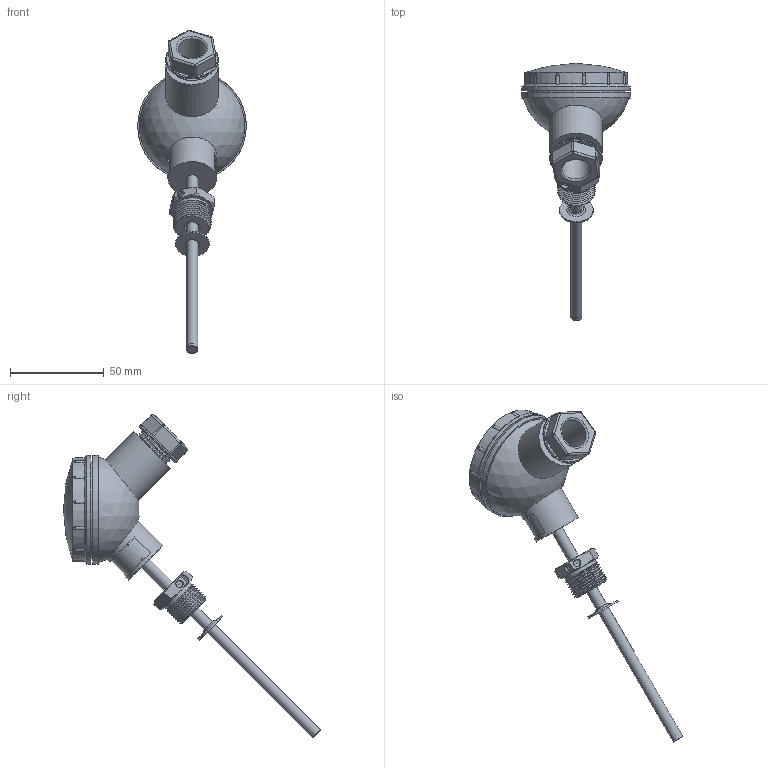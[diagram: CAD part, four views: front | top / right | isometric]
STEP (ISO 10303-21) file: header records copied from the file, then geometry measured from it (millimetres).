
FILE_DESCRIPTION(('STEP AP242'), '1');
FILE_NAME('栖闉罻 3.1.06.02', '', ('UNSPECIFIED'), ('UNSPECIFIED'), 'ASCON STEP Converter 1.6', 'ASCON Math Kernel', '');
FILE_SCHEMA(('AP242_MANAGED_MODEL_BASED_3D_ENGINEERING_MIM_LF { 1 0 10303 442 1 1 4 }'));
Length unit declared in the file: millimetre
Products named in the file (13): Сборка405111-001угл; Шайба 758480-006; Шайба 4; Прокладка 754100-000; Винт 715341-000; Гайка М4; Заглушка 754100-001; Крышка 735214-000; Кожух 731196-000-00; Шайба 758480-001-01; Трубка 723110-004; Гайка 758480-000
Assembly tree (21 placements, depth 3):
  Сборка405111-001угл
    Шайба 758480-006  x4
    Шайба 4  x4
    Прокладка 754100-000
    Винт 715341-000
    Гайка М4  x4
    Заглушка 754100-001
    Крышка 735214-000
    Кожух 731196-000-00
    (unnamed)
      Шайба 758480-001-01
      Трубка 723110-004
      Гайка 758480-000
Bounding box: 58 x 137.08 x 172.57 mm (x, y, z)
Volume: 68336.5 mm3; surface area: 43015.8 mm2
Topology: 22 solids, 22 shells, 557 faces, 1415 edges, 897 vertices
Faces by surface type: cylinder 236, plane 187, bspline 56, cone 54, torus 16, sphere 8
Full cylindrical faces by diameter (mm): 1.6 x1, 4 x7, 4.2 x4, 5 x1, 6 x4, 6.5 x1, 9 x4, 12 x2, 15 x1, 15.4 x1, 18 x1, 18.94 x1, 19.2 x1, 20 x1, 26 x1, 28 x2, 44 x1, 47 x2, 48 x1, 52 x1, 53 x1, 54 x1, 55 x1, 58 x2
Entity records: 90078 total; most frequent: CARTESIAN_POINT 75944, ORIENTED_EDGE 2146, DIRECTION 1654, EDGE_CURVE 1073, VERTEX_POINT 727, AXIS2_PLACEMENT_3D 669, EDGE_LOOP 552, B_SPLINE_CURVE_WITH_KNOTS 484
